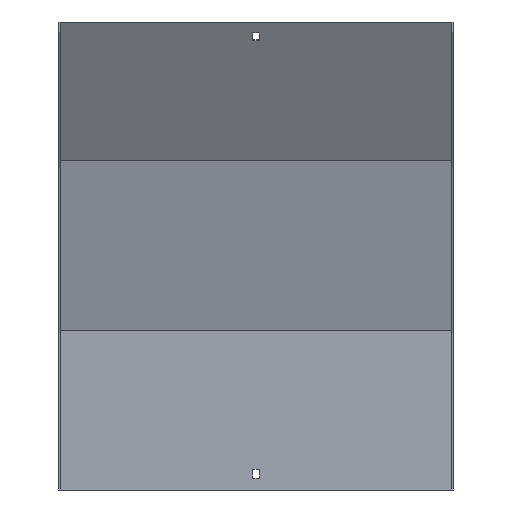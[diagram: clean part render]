
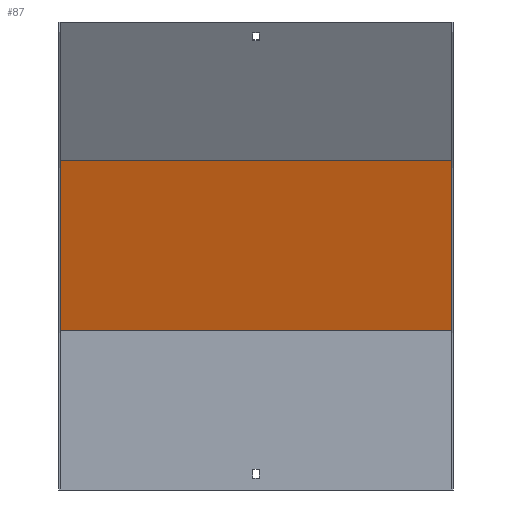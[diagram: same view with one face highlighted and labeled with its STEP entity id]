
A CAD part, front view. The second image highlights one B-rep face of the part: STEP entity #87.
In plain terms, the highlighted planar face has unit normal (0, -0.966, -0.259).
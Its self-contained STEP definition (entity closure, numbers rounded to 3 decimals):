
#36 = DIRECTION ( 'NONE',  ( 0., -0.259, 0.966 ) ) ;
#42 = DIRECTION ( 'NONE',  ( 0., -0.966, -0.259 ) ) ;
#49 = VERTEX_POINT ( 'NONE', #690 ) ;
#58 = CARTESIAN_POINT ( 'NONE',  ( 200., 18.5, 162.436 ) ) ;
#70 = ORIENTED_EDGE ( 'NONE', *, *, #315, .F. ) ;
#74 = CARTESIAN_POINT ( 'NONE',  ( -200., 18.5, 162.436 ) ) ;
#87 = ADVANCED_FACE ( 'NONE', ( #767 ), #168, .T. ) ;
#88 = EDGE_LOOP ( 'NONE', ( #327, #70, #402, #810 ) ) ;
#92 = CARTESIAN_POINT ( 'NONE',  ( 201.5, 18.5, 162.436 ) ) ;
#95 = LINE ( 'NONE', #92, #723 ) ;
#109 = CARTESIAN_POINT ( 'NONE',  ( 201.5, 17.87, 164.788 ) ) ;
#150 = CARTESIAN_POINT ( 'NONE',  ( -200., 57.87, 15.506 ) ) ;
#168 = PLANE ( 'NONE',  #570 ) ;
#180 = VERTEX_POINT ( 'NONE', #74 ) ;
#194 = CARTESIAN_POINT ( 'NONE',  ( 201.5, -28.054, 336.178 ) ) ;
#203 = EDGE_CURVE ( 'NONE', #49, #443, #276, .T. ) ;
#223 = DIRECTION ( 'NONE',  ( -1., 0., 0. ) ) ;
#276 = LINE ( 'NONE', #194, #435 ) ;
#308 = DIRECTION ( 'NONE',  ( 0., 0.259, -0.966 ) ) ;
#315 = EDGE_CURVE ( 'NONE', #834, #180, #95, .T. ) ;
#327 = ORIENTED_EDGE ( 'NONE', *, *, #335, .F. ) ;
#335 = EDGE_CURVE ( 'NONE', #180, #443, #485, .T. ) ;
#363 = VECTOR ( 'NONE', #491, 1000. ) ;
#365 = LINE ( 'NONE', #441, #590 ) ;
#402 = ORIENTED_EDGE ( 'NONE', *, *, #444, .T. ) ;
#435 = VECTOR ( 'NONE', #458, 1000. ) ;
#441 = CARTESIAN_POINT ( 'NONE',  ( 200., 57.87, 15.506 ) ) ;
#443 = VERTEX_POINT ( 'NONE', #833 ) ;
#444 = EDGE_CURVE ( 'NONE', #834, #49, #365, .T. ) ;
#458 = DIRECTION ( 'NONE',  ( -1., 0., 0. ) ) ;
#485 = LINE ( 'NONE', #150, #363 ) ;
#491 = DIRECTION ( 'NONE',  ( 0., -0.259, 0.966 ) ) ;
#570 = AXIS2_PLACEMENT_3D ( 'NONE', #109, #42, #308 ) ;
#590 = VECTOR ( 'NONE', #36, 1000. ) ;
#690 = CARTESIAN_POINT ( 'NONE',  ( 200., -28.054, 336.178 ) ) ;
#723 = VECTOR ( 'NONE', #223, 1000. ) ;
#767 = FACE_OUTER_BOUND ( 'NONE', #88, .T. ) ;
#810 = ORIENTED_EDGE ( 'NONE', *, *, #203, .T. ) ;
#833 = CARTESIAN_POINT ( 'NONE',  ( -200., -28.054, 336.178 ) ) ;
#834 = VERTEX_POINT ( 'NONE', #58 ) ;
